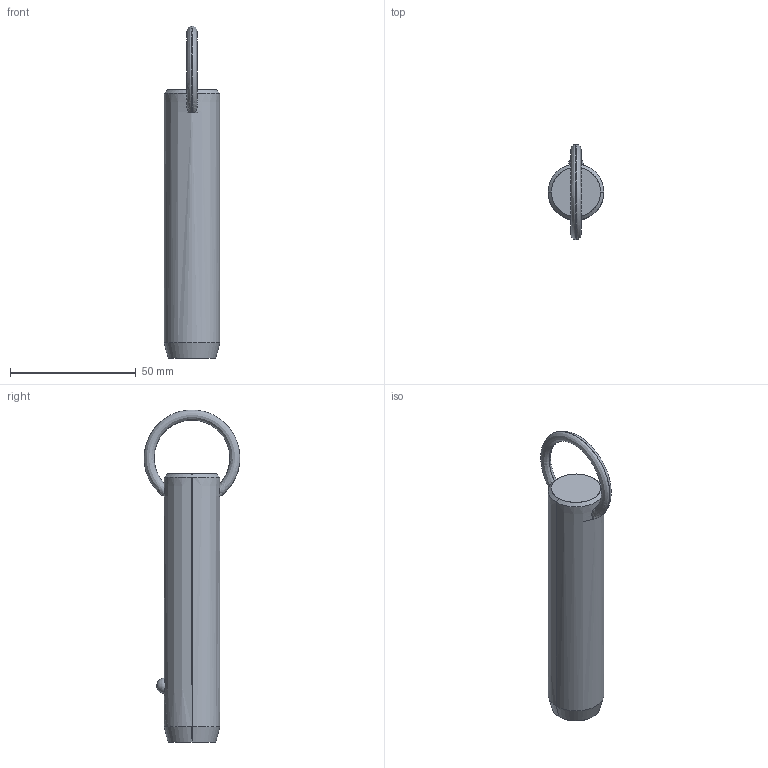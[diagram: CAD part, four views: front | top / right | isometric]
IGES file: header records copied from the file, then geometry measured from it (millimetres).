
Start section: SolidWorks IGES file using analytic representation for surfaces
Global section: file name: C:\Users\liam_\OneDrive\Documents\WORK\Work for WixRoyd\Job Files\J-00019 - Matt Davis CAD Checking\04. CAD Drawings\automotion20190605\P1250.2_v2\P1250.2_v2_20190729_IGES\P1250.087-270.igs; native system: SolidWorks 2017; preprocessor: SolidWorks 2017; author: liam_; date: 190730.000804; units: millimetre
Bounding box: 22.2 x 38.07 x 132.1 mm (x, y, z)
Surface area: 9085.4 mm2 (no closed solid volume)
Topology: 0 solids, 0 shells, 12 faces, 302 edges, 300 vertices
Faces by surface type: revolution 8, bspline 4
